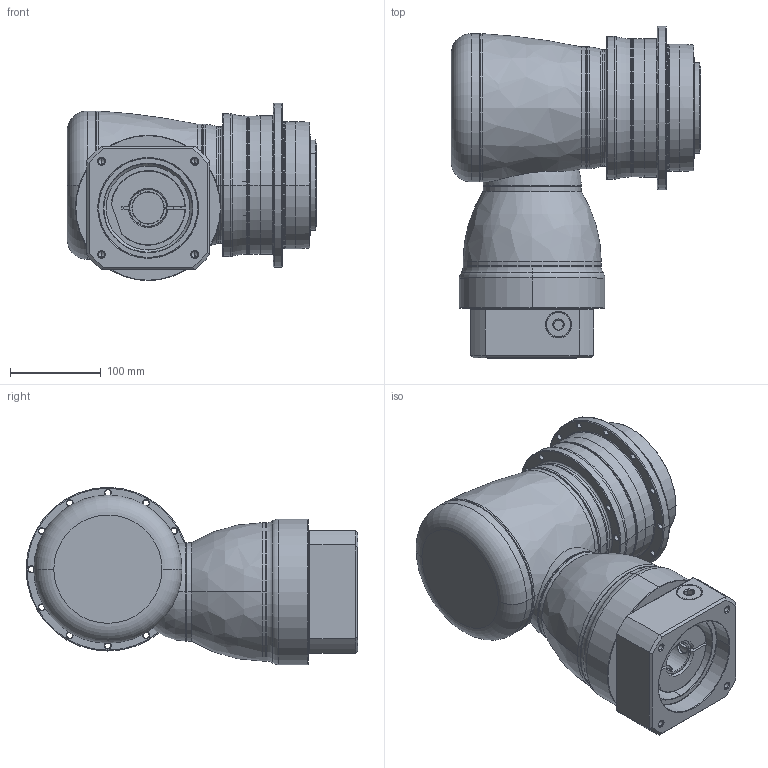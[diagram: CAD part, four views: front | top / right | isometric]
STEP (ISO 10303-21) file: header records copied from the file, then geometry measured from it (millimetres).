
FILE_DESCRIPTION((''),'2;1');
FILE_NAME('AHK140_2ST_35-P0409800101_ASM','2016-10-12T',('d01943'),(''),'PRO/ENGINEER BY PARAMETRIC TECHNOLOGY CORPORATION, 2008410','PRO/ENGINEER BY PARAMETRIC TECHNOLOGY CORPORATION, 2008410','');
FILE_SCHEMA(('CONFIG_CONTROL_DESIGN'));
Length unit declared in the file: millimetre
Products named in the file (12): P1008500002; P1802500011; P0278500003; P0359500002; P1315500001; P1007500001; P1318500301; P0503800012; P0912503201; P0409800101; 21711422019; AHK140_2ST_35-P0409800101_ASM
Assembly tree (11 placements, depth 2):
  AHK140_2ST_35-P0409800101_ASM
    P1008500002
    P1802500011
    P0278500003
    P0359500002
    P1315500001
    P1007500001
    P1318500301
    P0503800012
    P0912503201
    P0409800101
    21711422019
Bounding box: 274.5 x 365 x 195 mm (x, y, z)
Volume: 5689457.2 mm3; surface area: 686222.5 mm2
Topology: 12 solids, 12 shells, 852 faces, 1897 edges, 1097 vertices
Faces by surface type: cylinder 305, cone 274, plane 124, torus 122, bspline 25, sphere 2
Entity records: 28515 total; most frequent: CARTESIAN_POINT 9115, DIRECTION 4473, ORIENTED_EDGE 3670, AXIS2_PLACEMENT_3D 1912, EDGE_CURVE 1835, VERTEX_POINT 1097, CIRCLE 1062, EDGE_LOOP 1004
